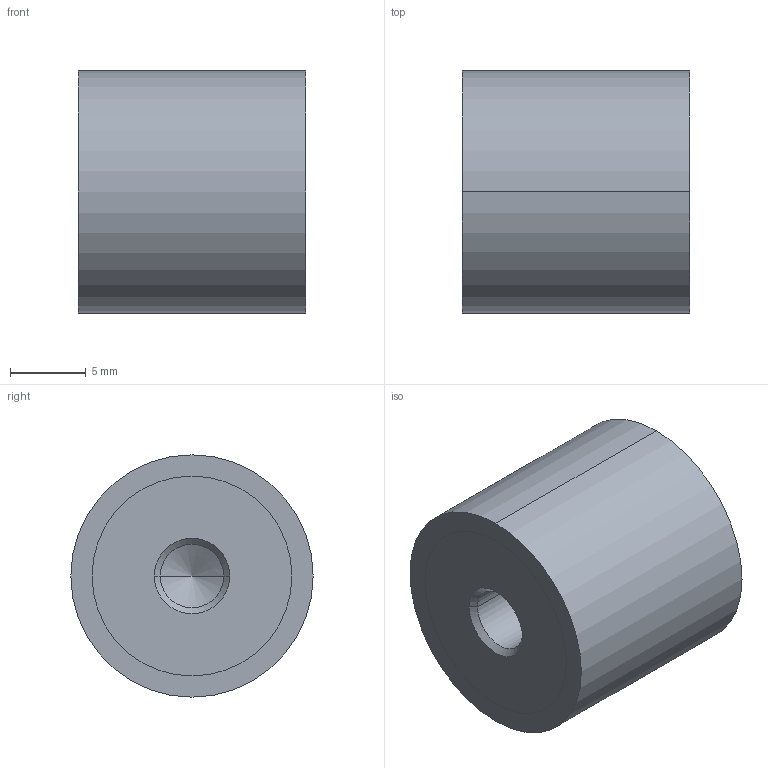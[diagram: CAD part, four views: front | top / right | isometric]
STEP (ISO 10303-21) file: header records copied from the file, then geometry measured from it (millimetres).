
FILE_DESCRIPTION (( 'STEP AP214' ), '1' );
FILE_NAME ('351-16-15-M5-EE-70.step', '2025-07-23T09:39:37', ( '' ), ( '' ), 'SwSTEP 2.0', 'SolidWorks 2022', '' );
FILE_SCHEMA (( 'AUTOMOTIVE_DESIGN' ));
Length unit declared in the file: millimetre
Products named in the file (1): 351-16-15-M5-EE-70
Bounding box: 15 x 16 x 16 mm (x, y, z)
Volume: 2834.4 mm3; surface area: 1313.3 mm2
Topology: 1 solids, 1 shells, 28 faces, 58 edges, 34 vertices
Faces by surface type: cylinder 14, cone 8, plane 6
Entity records: 844 total; most frequent: DIRECTION 144, CARTESIAN_POINT 117, ORIENTED_EDGE 108, AXIS2_PLACEMENT_3D 61, EDGE_CURVE 54, VERTEX_POINT 34, EDGE_LOOP 34, CIRCLE 32
